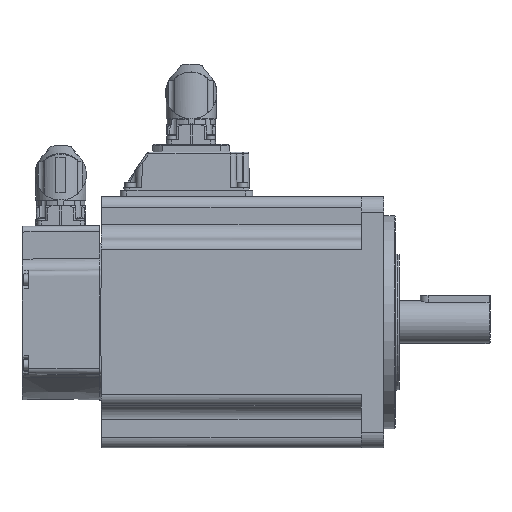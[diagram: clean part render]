
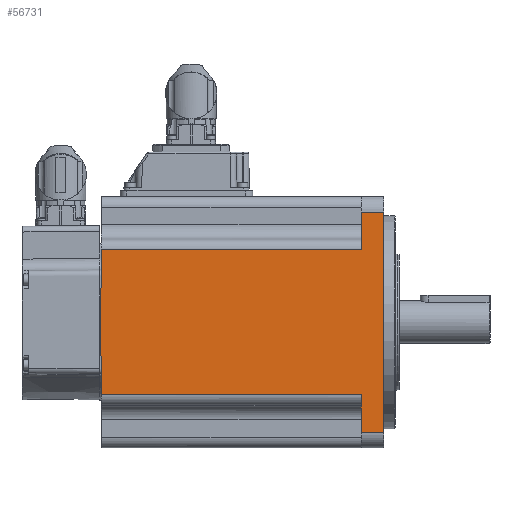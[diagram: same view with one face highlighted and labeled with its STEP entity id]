
A CAD part, left-side view. The second image highlights one B-rep face of the part: STEP entity #56731.
In plain terms, the highlighted planar face has unit normal (-1, 0, 0).
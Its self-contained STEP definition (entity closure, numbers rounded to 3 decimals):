
#56731 = ADVANCED_FACE( '', ( #65764 ), #65765, .T. );
#58307 = EDGE_CURVE( '', #68624, #68622, #68625, .T. );
#58755 = EDGE_CURVE( '', #69387, #68622, #69390, .T. );
#61217 = EDGE_CURVE( '', #73248, #73246, #73249, .T. );
#61249 = EDGE_CURVE( '', #69387, #73296, #73297, .F. );
#61924 = EDGE_CURVE( '', #68624, #74265, #74266, .T. );
#62857 = EDGE_CURVE( '', #75528, #73296, #75529, .T. );
#64912 = EDGE_CURVE( '', #77951, #73248, #77952, .T. );
#65764 = FACE_OUTER_BOUND( '', #78816, .T. );
#65765 = PLANE( '', #78817 );
#68622 = VERTEX_POINT( '', #84190 );
#68624 = VERTEX_POINT( '', #84192 );
#68625 = LINE( '', #84193, #84194 );
#69387 = VERTEX_POINT( '', #86253 );
#69390 = LINE( '', #86256, #86257 );
#73246 = VERTEX_POINT( '', #94728 );
#73248 = VERTEX_POINT( '', #94730 );
#73249 = LINE( '', #94731, #94732 );
#73296 = VERTEX_POINT( '', #94826 );
#73297 = LINE( '', #94827, #94828 );
#74265 = VERTEX_POINT( '', #96799 );
#74266 = LINE( '', #96800, #96801 );
#75528 = VERTEX_POINT( '', #100176 );
#75529 = LINE( '', #100177, #100178 );
#77951 = VERTEX_POINT( '', #105790 );
#77952 = LINE( '', #105791, #105792 );
#78816 = EDGE_LOOP( '', ( #107835, #107836, #107837, #107838, #107839, #107840, #107841, #107842, #107843 ) );
#78817 = AXIS2_PLACEMENT_3D( '', #107844, #107845, #107846 );
#84190 = CARTESIAN_POINT( '', ( -65., -39.5, -57. ) );
#84192 = CARTESIAN_POINT( '', ( -65., -28., -57. ) );
#84193 = CARTESIAN_POINT( '', ( -65., 277.158, -57. ) );
#84194 = VECTOR( '', #110834, 1000. );
#86253 = CARTESIAN_POINT( '', ( -65., -39.5, 57. ) );
#86256 = CARTESIAN_POINT( '', ( -65., -39.5, 65. ) );
#86257 = VECTOR( '', #111330, 1000. );
#94728 = CARTESIAN_POINT( '', ( -65., 106.473, -37.5 ) );
#94730 = CARTESIAN_POINT( '', ( -65., 106.8, 0. ) );
#94731 = CARTESIAN_POINT( '', ( -65., 106.227, -65.623 ) );
#94732 = VECTOR( '', #114238, 1000. );
#94826 = CARTESIAN_POINT( '', ( -65., -28., 57. ) );
#94827 = CARTESIAN_POINT( '', ( -65., 277.158, 57. ) );
#94828 = VECTOR( '', #114278, 1000. );
#96799 = CARTESIAN_POINT( '', ( -65., -28., -37.5 ) );
#96800 = CARTESIAN_POINT( '', ( -65., -28., 65. ) );
#96801 = VECTOR( '', #115077, 1000. );
#100176 = CARTESIAN_POINT( '', ( -65., -28., 37.5 ) );
#100177 = CARTESIAN_POINT( '', ( -65., -28., 65. ) );
#100178 = VECTOR( '', #116060, 1000. );
#105790 = CARTESIAN_POINT( '', ( -65., 106.473, 37.5 ) );
#105791 = CARTESIAN_POINT( '', ( -65., 107.362, -64.367 ) );
#105792 = VECTOR( '', #117710, 1000. );
#107835 = ORIENTED_EDGE( '', *, *, #118156, .T. );
#107836 = ORIENTED_EDGE( '', *, *, #64912, .T. );
#107837 = ORIENTED_EDGE( '', *, *, #61217, .T. );
#107838 = ORIENTED_EDGE( '', *, *, #118157, .T. );
#107839 = ORIENTED_EDGE( '', *, *, #61924, .F. );
#107840 = ORIENTED_EDGE( '', *, *, #58307, .T. );
#107841 = ORIENTED_EDGE( '', *, *, #58755, .F. );
#107842 = ORIENTED_EDGE( '', *, *, #61249, .T. );
#107843 = ORIENTED_EDGE( '', *, *, #62857, .F. );
#107844 = CARTESIAN_POINT( '', ( -65., 277.158, 65. ) );
#107845 = DIRECTION( '', ( -1., 0., 0. ) );
#107846 = DIRECTION( '', ( 0., 0., 1. ) );
#110834 = DIRECTION( '', ( 0., -1., 0. ) );
#111330 = DIRECTION( '', ( 0., 0., -1. ) );
#114238 = DIRECTION( '', ( 0., -0.009, -1. ) );
#114278 = DIRECTION( '', ( 0., -1., 0. ) );
#115077 = DIRECTION( '', ( 0., 0., 1. ) );
#116060 = DIRECTION( '', ( 0., 0., 1. ) );
#117710 = DIRECTION( '', ( 0., 0.009, -1. ) );
#118156 = EDGE_CURVE( '', #75528, #77951, #119145, .T. );
#118157 = EDGE_CURVE( '', #73246, #74265, #119146, .T. );
#119145 = LINE( '', #120635, #120636 );
#119146 = LINE( '', #120637, #120638 );
#120635 = CARTESIAN_POINT( '', ( -65., 277.158, 37.5 ) );
#120636 = VECTOR( '', #122010, 1000. );
#120637 = CARTESIAN_POINT( '', ( -65., 277.158, -37.5 ) );
#120638 = VECTOR( '', #122011, 1000. );
#122010 = DIRECTION( '', ( 0., 1., 0. ) );
#122011 = DIRECTION( '', ( 0., -1., 0. ) );
